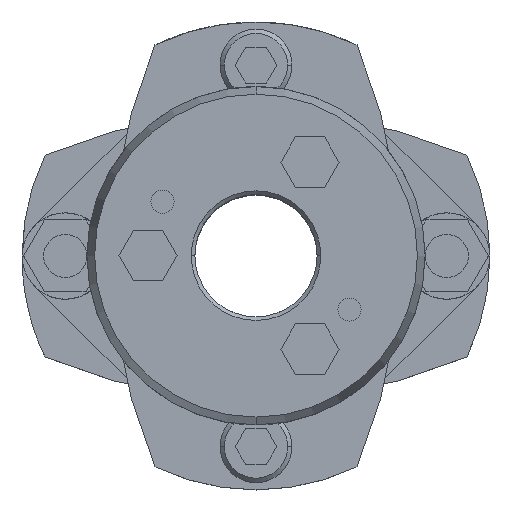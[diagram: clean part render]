
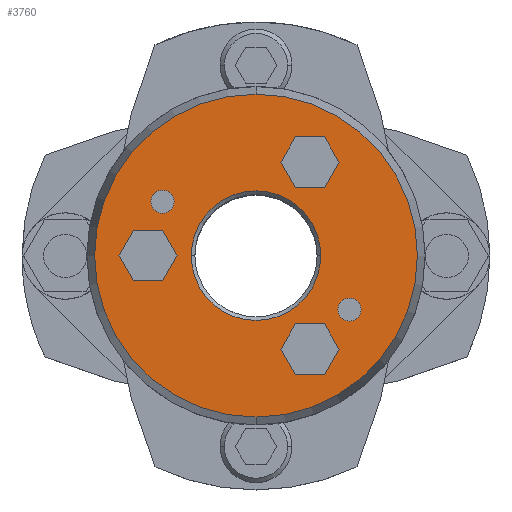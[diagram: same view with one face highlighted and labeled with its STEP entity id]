
A CAD part, top view. The second image highlights one B-rep face of the part: STEP entity #3760.
In plain terms, the highlighted planar face has unit normal (0, 0, 1).
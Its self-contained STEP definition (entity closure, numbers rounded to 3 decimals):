
#1462=CARTESIAN_POINT('',(0.,-22.428,30.75));
#1463=VERTEX_POINT('',#1462);
#1472=CARTESIAN_POINT('',(0.0,22.428,30.75));
#1473=VERTEX_POINT('',#1472);
#1474=CARTESIAN_POINT('',(0.0,0.,30.75));
#1475=DIRECTION('',(0.0,0.0,-1.0));
#1476=DIRECTION('',(0.0,-1.0,0.0));
#1477=AXIS2_PLACEMENT_3D('',#1474,#1475,#1476);
#1478=CIRCLE('',#1477,22.428);
#1479=EDGE_CURVE('',#1463,#1473,#1478,.T.);
#1506=CARTESIAN_POINT('',(-9.,0.,30.75));
#1507=VERTEX_POINT('',#1506);
#1523=CARTESIAN_POINT('',(9.,0.,30.75));
#1524=VERTEX_POINT('',#1523);
#1531=CARTESIAN_POINT('',(0.,0.,30.75));
#1532=DIRECTION('',(0.0,0.0,1.0));
#1533=DIRECTION('',(-1.0,0.0,0.0));
#1534=AXIS2_PLACEMENT_3D('',#1531,#1532,#1533);
#1535=CIRCLE('',#1534,9.0);
#1536=EDGE_CURVE('',#1524,#1507,#1535,.T.);
#1944=CARTESIAN_POINT('',(-14.59,7.5,30.75));
#1945=VERTEX_POINT('',#1944);
#1961=CARTESIAN_POINT('',(-11.39,7.5,30.75));
#1962=VERTEX_POINT('',#1961);
#1969=CARTESIAN_POINT('',(-12.99,7.5,30.75));
#1970=DIRECTION('',(0.0,0.0,-1.0));
#1971=DIRECTION('',(-1.0,0.0,0.0));
#1972=AXIS2_PLACEMENT_3D('',#1969,#1970,#1971);
#1973=CIRCLE('',#1972,1.6);
#1974=EDGE_CURVE('',#1945,#1962,#1973,.T.);
#1986=CARTESIAN_POINT('',(11.39,-7.5,30.75));
#1987=VERTEX_POINT('',#1986);
#2003=CARTESIAN_POINT('',(14.59,-7.5,30.75));
#2004=VERTEX_POINT('',#2003);
#2011=CARTESIAN_POINT('',(12.99,-7.5,30.75));
#2012=DIRECTION('',(0.0,0.0,-1.0));
#2013=DIRECTION('',(-1.0,0.0,0.0));
#2014=AXIS2_PLACEMENT_3D('',#2011,#2012,#2013);
#2015=CIRCLE('',#2014,1.6);
#2016=EDGE_CURVE('',#1987,#2004,#2015,.T.);
#2113=CARTESIAN_POINT('',(12.99,-7.5,30.75));
#2114=DIRECTION('',(0.0,0.0,-1.0));
#2115=DIRECTION('',(-1.0,0.0,0.0));
#2116=AXIS2_PLACEMENT_3D('',#2113,#2114,#2115);
#2117=CIRCLE('',#2116,1.6);
#2118=EDGE_CURVE('',#2004,#1987,#2117,.T.);
#2147=CARTESIAN_POINT('',(-12.99,7.5,30.75));
#2148=DIRECTION('',(0.0,0.0,-1.0));
#2149=DIRECTION('',(-1.0,0.0,0.0));
#2150=AXIS2_PLACEMENT_3D('',#2147,#2148,#2149);
#2151=CIRCLE('',#2150,1.6);
#2152=EDGE_CURVE('',#1962,#1945,#2151,.T.);
#2190=CARTESIAN_POINT('',(-19.041,0.,30.75));
#2191=VERTEX_POINT('',#2190);
#2198=CARTESIAN_POINT('',(-17.021,-3.5,30.75));
#2199=VERTEX_POINT('',#2198);
#2200=CARTESIAN_POINT('',(-17.021,-3.5,30.75));
#2201=DIRECTION('',(-0.5,0.866,0.0));
#2202=VECTOR('',#2201,4.041);
#2203=LINE('',#2200,#2202);
#2204=EDGE_CURVE('',#2199,#2191,#2203,.T.);
#2228=CARTESIAN_POINT('',(-17.021,3.5,30.75));
#2229=VERTEX_POINT('',#2228);
#2236=CARTESIAN_POINT('',(-19.041,0.,30.75));
#2237=DIRECTION('',(0.5,0.866,0.0));
#2238=VECTOR('',#2237,4.041);
#2239=LINE('',#2236,#2238);
#2240=EDGE_CURVE('',#2191,#2229,#2239,.T.);
#2259=CARTESIAN_POINT('',(-12.979,3.5,30.75));
#2260=VERTEX_POINT('',#2259);
#2267=CARTESIAN_POINT('',(-17.021,3.5,30.75));
#2268=DIRECTION('',(1.0,0.0,0.0));
#2269=VECTOR('',#2268,4.041);
#2270=LINE('',#2267,#2269);
#2271=EDGE_CURVE('',#2229,#2260,#2270,.T.);
#2290=CARTESIAN_POINT('',(-10.959,0.,30.75));
#2291=VERTEX_POINT('',#2290);
#2298=CARTESIAN_POINT('',(-12.979,3.5,30.75));
#2299=DIRECTION('',(0.5,-0.866,0.0));
#2300=VECTOR('',#2299,4.041);
#2301=LINE('',#2298,#2300);
#2302=EDGE_CURVE('',#2260,#2291,#2301,.T.);
#2321=CARTESIAN_POINT('',(-12.979,-3.5,30.75));
#2322=VERTEX_POINT('',#2321);
#2329=CARTESIAN_POINT('',(-10.959,0.,30.75));
#2330=DIRECTION('',(-0.5,-0.866,0.0));
#2331=VECTOR('',#2330,4.041);
#2332=LINE('',#2329,#2331);
#2333=EDGE_CURVE('',#2291,#2322,#2332,.T.);
#2351=CARTESIAN_POINT('',(-12.979,-3.5,30.75));
#2352=DIRECTION('',(-1.0,0.0,0.0));
#2353=VECTOR('',#2352,4.041);
#2354=LINE('',#2351,#2353);
#2355=EDGE_CURVE('',#2322,#2199,#2354,.T.);
#2390=CARTESIAN_POINT('',(3.459,-12.99,30.75));
#2391=VERTEX_POINT('',#2390);
#2398=CARTESIAN_POINT('',(5.479,-16.49,30.75));
#2399=VERTEX_POINT('',#2398);
#2400=CARTESIAN_POINT('',(5.479,-16.49,30.75));
#2401=DIRECTION('',(-0.5,0.866,0.0));
#2402=VECTOR('',#2401,4.041);
#2403=LINE('',#2400,#2402);
#2404=EDGE_CURVE('',#2399,#2391,#2403,.T.);
#2428=CARTESIAN_POINT('',(5.479,-9.49,30.75));
#2429=VERTEX_POINT('',#2428);
#2436=CARTESIAN_POINT('',(3.459,-12.99,30.75));
#2437=DIRECTION('',(0.5,0.866,0.0));
#2438=VECTOR('',#2437,4.041);
#2439=LINE('',#2436,#2438);
#2440=EDGE_CURVE('',#2391,#2429,#2439,.T.);
#2459=CARTESIAN_POINT('',(9.521,-9.49,30.75));
#2460=VERTEX_POINT('',#2459);
#2467=CARTESIAN_POINT('',(5.479,-9.49,30.75));
#2468=DIRECTION('',(1.0,0.0,0.0));
#2469=VECTOR('',#2468,4.041);
#2470=LINE('',#2467,#2469);
#2471=EDGE_CURVE('',#2429,#2460,#2470,.T.);
#2490=CARTESIAN_POINT('',(11.541,-12.99,30.75));
#2491=VERTEX_POINT('',#2490);
#2498=CARTESIAN_POINT('',(9.521,-9.49,30.75));
#2499=DIRECTION('',(0.5,-0.866,0.0));
#2500=VECTOR('',#2499,4.041);
#2501=LINE('',#2498,#2500);
#2502=EDGE_CURVE('',#2460,#2491,#2501,.T.);
#2521=CARTESIAN_POINT('',(9.521,-16.49,30.75));
#2522=VERTEX_POINT('',#2521);
#2529=CARTESIAN_POINT('',(11.541,-12.99,30.75));
#2530=DIRECTION('',(-0.5,-0.866,0.0));
#2531=VECTOR('',#2530,4.041);
#2532=LINE('',#2529,#2531);
#2533=EDGE_CURVE('',#2491,#2522,#2532,.T.);
#2551=CARTESIAN_POINT('',(9.521,-16.49,30.75));
#2552=DIRECTION('',(-1.0,0.0,0.0));
#2553=VECTOR('',#2552,4.041);
#2554=LINE('',#2551,#2553);
#2555=EDGE_CURVE('',#2522,#2399,#2554,.T.);
#2590=CARTESIAN_POINT('',(3.459,12.99,30.75));
#2591=VERTEX_POINT('',#2590);
#2598=CARTESIAN_POINT('',(5.479,9.49,30.75));
#2599=VERTEX_POINT('',#2598);
#2600=CARTESIAN_POINT('',(5.479,9.49,30.75));
#2601=DIRECTION('',(-0.5,0.866,0.0));
#2602=VECTOR('',#2601,4.041);
#2603=LINE('',#2600,#2602);
#2604=EDGE_CURVE('',#2599,#2591,#2603,.T.);
#2628=CARTESIAN_POINT('',(5.479,16.49,30.75));
#2629=VERTEX_POINT('',#2628);
#2636=CARTESIAN_POINT('',(3.459,12.99,30.75));
#2637=DIRECTION('',(0.5,0.866,0.0));
#2638=VECTOR('',#2637,4.041);
#2639=LINE('',#2636,#2638);
#2640=EDGE_CURVE('',#2591,#2629,#2639,.T.);
#2659=CARTESIAN_POINT('',(9.521,16.49,30.75));
#2660=VERTEX_POINT('',#2659);
#2667=CARTESIAN_POINT('',(5.479,16.49,30.75));
#2668=DIRECTION('',(1.0,0.0,0.0));
#2669=VECTOR('',#2668,4.041);
#2670=LINE('',#2667,#2669);
#2671=EDGE_CURVE('',#2629,#2660,#2670,.T.);
#2690=CARTESIAN_POINT('',(11.541,12.99,30.75));
#2691=VERTEX_POINT('',#2690);
#2698=CARTESIAN_POINT('',(9.521,16.49,30.75));
#2699=DIRECTION('',(0.5,-0.866,0.0));
#2700=VECTOR('',#2699,4.041);
#2701=LINE('',#2698,#2700);
#2702=EDGE_CURVE('',#2660,#2691,#2701,.T.);
#2721=CARTESIAN_POINT('',(9.521,9.49,30.75));
#2722=VERTEX_POINT('',#2721);
#2729=CARTESIAN_POINT('',(11.541,12.99,30.75));
#2730=DIRECTION('',(-0.5,-0.866,0.0));
#2731=VECTOR('',#2730,4.041);
#2732=LINE('',#2729,#2731);
#2733=EDGE_CURVE('',#2691,#2722,#2732,.T.);
#2751=CARTESIAN_POINT('',(9.521,9.49,30.75));
#2752=DIRECTION('',(-1.0,0.0,0.0));
#2753=VECTOR('',#2752,4.041);
#2754=LINE('',#2751,#2753);
#2755=EDGE_CURVE('',#2722,#2599,#2754,.T.);
#3697=CARTESIAN_POINT('',(0.,0.,30.75));
#3698=DIRECTION('',(0.0,0.0,1.0));
#3699=DIRECTION('',(-1.0,0.0,0.0));
#3700=AXIS2_PLACEMENT_3D('',#3697,#3698,#3699);
#3701=CIRCLE('',#3700,9.0);
#3702=EDGE_CURVE('',#1507,#1524,#3701,.T.);
#3709=CARTESIAN_POINT('',(0.,-9.964,30.75));
#3710=DIRECTION('',(0.0,0.0,1.0));
#3711=DIRECTION('',(-1.0,0.0,0.0));
#3712=AXIS2_PLACEMENT_3D('',#3709,#3710,#3711);
#3713=PLANE('',#3712);
#3714=ORIENTED_EDGE('',*,*,#1479,.F.);
#3715=CARTESIAN_POINT('',(0.0,0.,30.75));
#3716=DIRECTION('',(0.0,0.0,-1.0));
#3717=DIRECTION('',(0.0,-1.0,0.0));
#3718=AXIS2_PLACEMENT_3D('',#3715,#3716,#3717);
#3719=CIRCLE('',#3718,22.428);
#3720=EDGE_CURVE('',#1473,#1463,#3719,.T.);
#3721=ORIENTED_EDGE('',*,*,#3720,.F.);
#3722=EDGE_LOOP('',(#3714,#3721));
#3723=FACE_OUTER_BOUND('',#3722,.T.);
#3724=ORIENTED_EDGE('',*,*,#2016,.T.);
#3725=ORIENTED_EDGE('',*,*,#2118,.T.);
#3726=EDGE_LOOP('',(#3724,#3725));
#3727=FACE_BOUND('',#3726,.T.);
#3728=ORIENTED_EDGE('',*,*,#1974,.T.);
#3729=ORIENTED_EDGE('',*,*,#2152,.T.);
#3730=EDGE_LOOP('',(#3728,#3729));
#3731=FACE_BOUND('',#3730,.T.);
#3732=ORIENTED_EDGE('',*,*,#2204,.T.);
#3733=ORIENTED_EDGE('',*,*,#2240,.T.);
#3734=ORIENTED_EDGE('',*,*,#2271,.T.);
#3735=ORIENTED_EDGE('',*,*,#2302,.T.);
#3736=ORIENTED_EDGE('',*,*,#2333,.T.);
#3737=ORIENTED_EDGE('',*,*,#2355,.T.);
#3738=EDGE_LOOP('',(#3732,#3733,#3734,#3735,#3736,#3737));
#3739=FACE_BOUND('',#3738,.T.);
#3740=ORIENTED_EDGE('',*,*,#2404,.T.);
#3741=ORIENTED_EDGE('',*,*,#2440,.T.);
#3742=ORIENTED_EDGE('',*,*,#2471,.T.);
#3743=ORIENTED_EDGE('',*,*,#2502,.T.);
#3744=ORIENTED_EDGE('',*,*,#2533,.T.);
#3745=ORIENTED_EDGE('',*,*,#2555,.T.);
#3746=EDGE_LOOP('',(#3740,#3741,#3742,#3743,#3744,#3745));
#3747=FACE_BOUND('',#3746,.T.);
#3748=ORIENTED_EDGE('',*,*,#2604,.T.);
#3749=ORIENTED_EDGE('',*,*,#2640,.T.);
#3750=ORIENTED_EDGE('',*,*,#2671,.T.);
#3751=ORIENTED_EDGE('',*,*,#2702,.T.);
#3752=ORIENTED_EDGE('',*,*,#2733,.T.);
#3753=ORIENTED_EDGE('',*,*,#2755,.T.);
#3754=EDGE_LOOP('',(#3748,#3749,#3750,#3751,#3752,#3753));
#3755=FACE_BOUND('',#3754,.T.);
#3756=ORIENTED_EDGE('',*,*,#1536,.F.);
#3757=ORIENTED_EDGE('',*,*,#3702,.F.);
#3758=EDGE_LOOP('',(#3756,#3757));
#3759=FACE_BOUND('',#3758,.T.);
#3760=ADVANCED_FACE('',(#3723,#3727,#3731,#3739,#3747,#3755,#3759),#3713,.T.);
